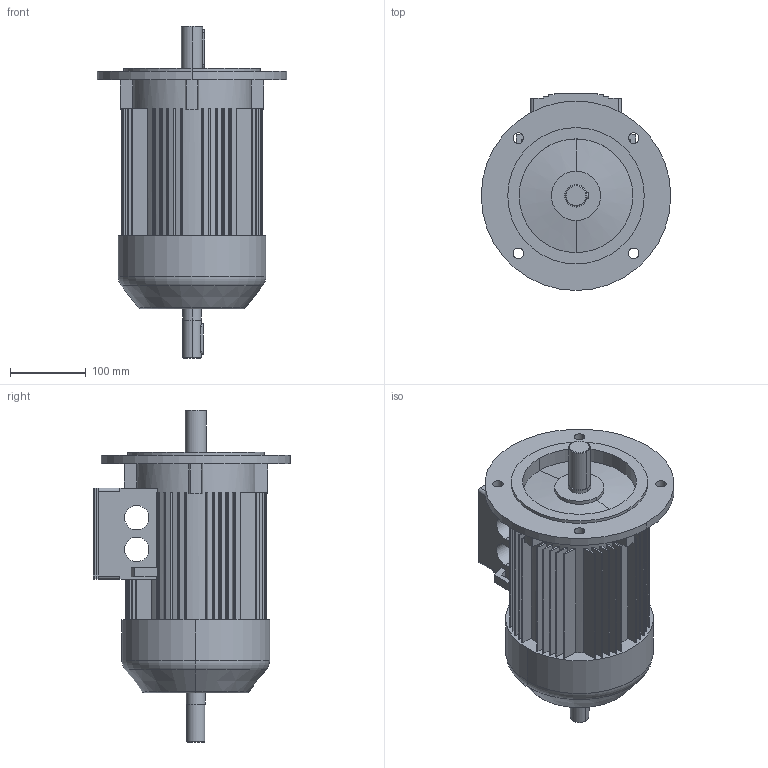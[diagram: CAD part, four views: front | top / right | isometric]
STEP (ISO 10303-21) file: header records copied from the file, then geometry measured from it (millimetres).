
FILE_DESCRIPTION((''),'2;1');
FILE_NAME('1LA7106-2AA11-Z-K16_PRT','2002-04-12T',('martin könig'),(''),'PRO/ENGINEER BY PARAMETRIC TECHNOLOGY CORPORATION, 2002030','PRO/ENGINEER BY PARAMETRIC TECHNOLOGY CORPORATION, 2002030','');
FILE_SCHEMA(('CONFIG_CONTROL_DESIGN'));
Length unit declared in the file: millimetre
Products named in the file (1): 1LA7106-2AA11-Z-K16_PRT
Bounding box: 250 x 260 x 438 mm (x, y, z)
Volume: 7972817.4 mm3; surface area: 534844.7 mm2
Topology: 1 solids, 1 shells, 276 faces, 778 edges, 514 vertices
Faces by surface type: plane 170, cylinder 94, cone 8, torus 4
Entity records: 9112 total; most frequent: CARTESIAN_POINT 1644, DIRECTION 1590, ORIENTED_EDGE 1556, EDGE_CURVE 778, AXIS2_PLACEMENT_3D 540, VERTEX_POINT 514, VECTOR 510, LINE 510
